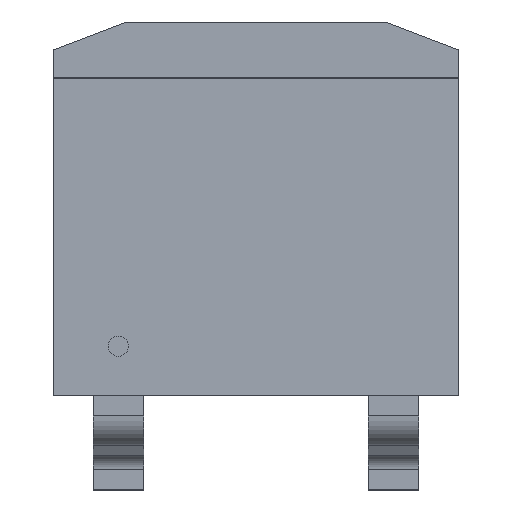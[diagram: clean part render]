
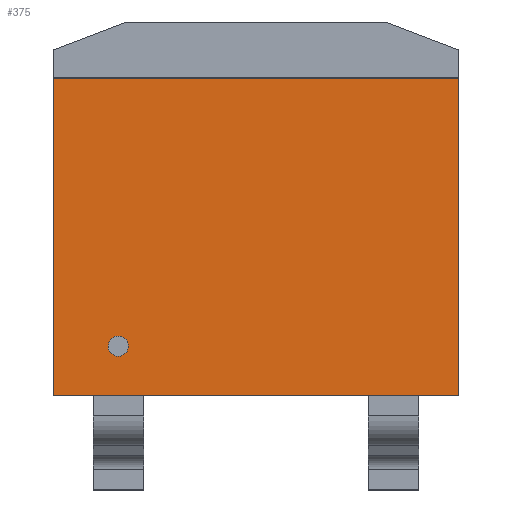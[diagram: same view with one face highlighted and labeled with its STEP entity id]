
A CAD part, top view. The second image highlights one B-rep face of the part: STEP entity #375.
In plain terms, the highlighted planar face has unit normal (0, 0, 1).
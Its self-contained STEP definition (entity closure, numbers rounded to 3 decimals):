
#151=CARTESIAN_POINT('',(3.366,-3.099,2.21));
#150=VERTEX_POINT('',#151);
#161=CARTESIAN_POINT('',(-3.366,-3.099,2.21));
#160=VERTEX_POINT('',#161);
#159=EDGE_CURVE('',#160,#150,#164,.T.);
#164=LINE('',#161,#166);
#166=VECTOR('',#167,6.731);
#167=DIRECTION('',(1.0,0.0,0.0));
#200=CARTESIAN_POINT('',(3.366,2.169,2.21));
#199=VERTEX_POINT('',#200);
#208=EDGE_CURVE('',#150,#199,#213,.T.);
#213=LINE('',#151,#215);
#215=VECTOR('',#216,5.268);
#216=DIRECTION('',(0.0,1.0,0.0));
#249=CARTESIAN_POINT('',(-3.366,2.169,2.21));
#248=VERTEX_POINT('',#249);
#257=EDGE_CURVE('',#199,#248,#262,.T.);
#262=LINE('',#200,#264);
#264=VECTOR('',#265,6.731);
#265=DIRECTION('',(-1.0,0.0,0.0));
#306=EDGE_CURVE('',#248,#160,#311,.T.);
#311=LINE('',#249,#313);
#313=VECTOR('',#314,5.268);
#314=DIRECTION('',(0.0,-1.0,0.0));
#375=ADVANCED_FACE('',(#381),#376,.T.);
#376=PLANE('',#377);
#377=AXIS2_PLACEMENT_3D('',#378,#379,#380);
#378=CARTESIAN_POINT('',(-3.366,-3.099,2.21));
#379=DIRECTION('',(0.0,0.0,1.0));
#380=DIRECTION('',(0.,1.,0.));
#381=FACE_OUTER_BOUND('',#382,.T.);
#382=EDGE_LOOP('',(#383,#393,#403,#413));
#383=ORIENTED_EDGE('',*,*,#159,.T.);
#393=ORIENTED_EDGE('',*,*,#208,.T.);
#403=ORIENTED_EDGE('',*,*,#257,.T.);
#413=ORIENTED_EDGE('',*,*,#306,.T.);
